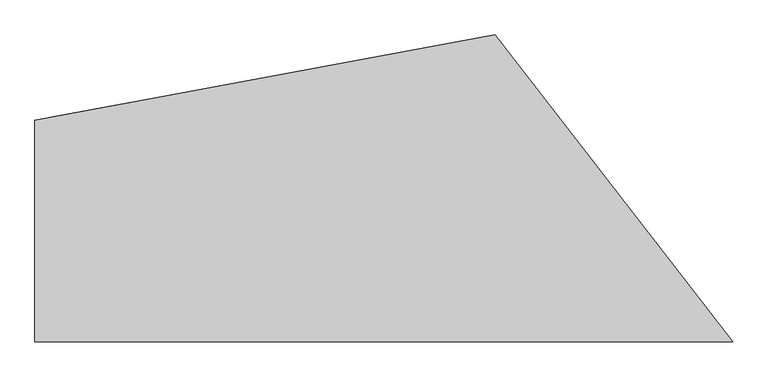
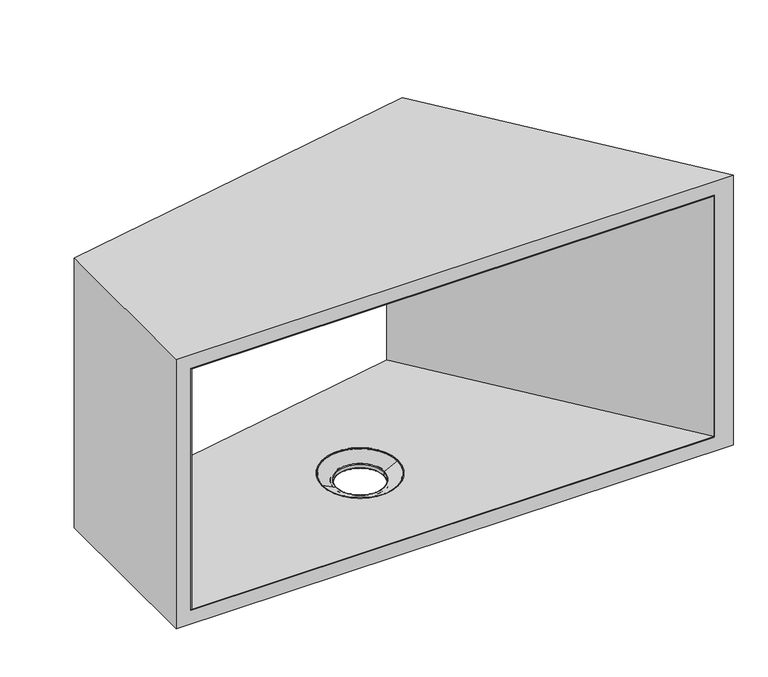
"""IFC4 building model written with IfcOpenShell, lengths in millimetres: furniture geometry, Coalesse_AM_Table_Occasional_Sebastopol_Large : 22H - With Gromment."""

from ifc_helpers import new_model, si_unit, point, frame, frame_2d, origin, origin_with_axes, place, context, project, spatial, polyline, circle_curve, ellipse_curve, trimmed, segment, composite_curve, outline, extrude, source, transform, mapped, element, save
from ifc_brep_helpers import plane_surface, cylinder_surface, revolved_surface, advanced_brep


def furniture_c7656f21(model_context):
    return source(origin(), model_context, "Body", "SolidModel", [
        extrude(outline(polyline([(-386.6129041, 451.557615), (-36.5419736, 0.0), (-1012.5201736, 0.0), (-1012.5201736, 335.5525594), (-386.6129041, 451.557615)]), holes=[composite_curve([segment(trimmed(circle_curve(frame_2d((-584.2000242, 196.215)), 69.5528681), [point((-514.6471561, 196.215))], [point((-653.7528923, 196.215))], True, "CARTESIAN"), True, "CONTINUOUS"), segment(trimmed(circle_curve(frame_2d((-584.2000242, 196.215)), 69.5528681), [point((-653.7528923, 196.215))], [point((-514.6471561, 196.215))], True, "CARTESIAN"), True, "CONTINUOUS")], self_intersect=False)]), frame((0.0, 0.0, 53.0098), z_axis=(0.0, 0.0, 1.0), x_axis=(1.0, 0.0, 0.0)), (0.0, 0.0, 1.0), 1.524),
        advanced_brep(
        [(-628.4624687, 196.215, 41.2015362), (-539.9375798, 196.215, 41.2015362), (-539.3083862, 196.215, 42.1809258), (-629.0916623, 196.215, 42.1809258), (-628.2451274, 196.215, 34.9776975), (-540.154921, 196.215, 34.9776975), (-630.708799, 196.215, 34.9776975), (-537.6912494, 196.215, 34.9776975), (-646.7376888, 196.215, 34.9776975), (-521.6623596, 196.215, 34.9776975), (-646.7376888, 196.215, 36.7445615), (-521.6623596, 196.215, 36.7445615), (-643.8349112, 196.215, 39.7504757), (-524.5651373, 196.215, 39.7504757), (-633.7164271, 196.215, 40.103821), (-534.6836213, 196.215, 40.103821), (-633.4122685, 196.215, 41.5347748), (-534.98778, 196.215, 41.5347748), (-652.7804402, 196.215, 50.9812633), (-515.6196082, 196.215, 50.9812633), (-653.2468556, 196.215, 51.727684), (-515.1531928, 196.215, 51.727684), (-653.2468556, 196.215, 53.0098), (-515.1531928, 196.215, 53.0098), (-656.1507851, 196.215, 53.0098), (-512.2492634, 196.215, 53.0098), (-656.1507851, 196.215, 54.0178131), (-512.2492634, 196.215, 54.0178131), (-654.6374395, 196.215, 54.9531343), (-513.7626089, 196.215, 54.9531343)],
        [
            (0, 1, circle_curve(frame((-584.2000242, 196.215, 41.2015362), z_axis=(0.0, 0.0, -1.0), x_axis=(1.0, 0.0, 0.0)), 44.2624445)),
            (1, 2, circle_curve(frame((-538.7988356, 196.215, 41.1617704), z_axis=(0.0, 1.0, 0.0), x_axis=(0.0, 0.0, 1.0)), 1.1394383)),
            (2, 3, circle_curve(frame((-584.2000242, 196.215, 42.1809258), z_axis=(0.0, 0.0, 1.0), x_axis=(1.0, 0.0, 0.0)), 44.891638)),
            (3, 0, circle_curve(frame((-629.6012128, 196.215, 41.1617704), z_axis=(0.0, 1.0, 0.0), x_axis=(0.0, 0.0, 1.0)), 1.1394383)),
            (1, 0, circle_curve(frame((-584.2000242, 196.215, 41.2015362), z_axis=(0.0, 0.0, -1.0), x_axis=(1.0, 0.0, 0.0)), 44.2624445)),
            (3, 2, circle_curve(frame((-584.2000242, 196.215, 42.1809258), z_axis=(0.0, 0.0, 1.0), x_axis=(1.0, 0.0, 0.0)), 44.891638)),
            (4, 5, circle_curve(frame((-584.2000242, 196.215, 34.9776975), z_axis=(0.0, 0.0, -1.0), x_axis=(1.0, 0.0, 0.0)), 44.0451032)),
            (5, 1),
            (0, 4),
            (5, 4, circle_curve(frame((-584.2000242, 196.215, 34.9776975), z_axis=(0.0, 0.0, -1.0), x_axis=(1.0, 0.0, 0.0)), 44.0451032)),
            (6, 7, circle_curve(frame((-584.2000242, 196.215, 34.9776975), z_axis=(0.0, 0.0, -1.0), x_axis=(1.0, 0.0, 0.0)), 46.5087748)),
            (7, 5, circle_curve(frame((-538.9230852, 196.215, 34.9346809), z_axis=(0.0, 1.0, 0.0), x_axis=(0.0, 0.0, 1.0)), 1.2325866)),
            (4, 6, circle_curve(frame((-629.4769632, 196.215, 34.9346809), z_axis=(0.0, 1.0, 0.0), x_axis=(0.0, 0.0, 1.0)), 1.2325866)),
            (7, 6, circle_curve(frame((-584.2000242, 196.215, 34.9776975), z_axis=(0.0, 0.0, -1.0), x_axis=(1.0, 0.0, 0.0)), 46.5087748)),
            (8, 9, circle_curve(frame((-584.2000242, 196.215, 34.9776975), z_axis=(0.0, 0.0, -1.0), x_axis=(1.0, 0.0, 0.0)), 62.5376646)),
            (9, 7),
            (6, 8),
            (9, 8, circle_curve(frame((-584.2000242, 196.215, 34.9776975), z_axis=(0.0, 0.0, -1.0), x_axis=(1.0, 0.0, 0.0)), 62.5376646)),
            (10, 11, circle_curve(frame((-584.2000242, 196.215, 36.7445615), z_axis=(0.0, 0.0, -1.0), x_axis=(1.0, 0.0, 0.0)), 62.5376646)),
            (11, 9),
            (8, 10),
            (11, 10, circle_curve(frame((-584.2000242, 196.215, 36.7445615), z_axis=(0.0, 0.0, -1.0), x_axis=(1.0, 0.0, 0.0)), 62.5376646)),
            (12, 13, circle_curve(frame((-584.2000242, 196.215, 39.7504757), z_axis=(0.0, 0.0, -1.0), x_axis=(1.0, 0.0, 0.0)), 59.634887)),
            (13, 11, circle_curve(frame((-524.6701061, 196.215, 36.7445615), z_axis=(0.0, 1.0, 0.0), x_axis=(0.0, 0.0, 1.0)), 3.0077465)),
            (10, 12, circle_curve(frame((-643.7299423, 196.215, 36.7445615), z_axis=(0.0, 1.0, 0.0), x_axis=(0.0, 0.0, 1.0)), 3.0077465)),
            (13, 12, circle_curve(frame((-584.2000242, 196.215, 39.7504757), z_axis=(0.0, 0.0, -1.0), x_axis=(1.0, 0.0, 0.0)), 59.634887)),
            (14, 15, circle_curve(frame((-584.2000242, 196.215, 40.103821), z_axis=(0.0, 0.0, -1.0), x_axis=(1.0, 0.0, 0.0)), 49.5164029)),
            (15, 13),
            (12, 14),
            (15, 14, circle_curve(frame((-584.2000242, 196.215, 40.103821), z_axis=(0.0, 0.0, -1.0), x_axis=(1.0, 0.0, 0.0)), 49.5164029)),
            (16, 17, circle_curve(frame((-584.2000242, 196.215, 41.5347748), z_axis=(0.0, 0.0, -1.0), x_axis=(1.0, 0.0, 0.0)), 49.2122443)),
            (17, 15, circle_curve(frame((-534.6573122, 196.215, 40.8572155), z_axis=(0.0, -1.0, 0.0), x_axis=(0.0, 0.0, 1.0)), 0.7538537)),
            (14, 16, circle_curve(frame((-633.7427362, 196.215, 40.8572155), z_axis=(0.0, -1.0, 0.0), x_axis=(0.0, 0.0, 1.0)), 0.7538537)),
            (17, 16, circle_curve(frame((-584.2000242, 196.215, 41.5347748), z_axis=(0.0, 0.0, -1.0), x_axis=(1.0, 0.0, 0.0)), 49.2122443)),
            (18, 19, circle_curve(frame((-584.2000242, 196.215, 50.9812633), z_axis=(0.0, 0.0, -1.0), x_axis=(1.0, 0.0, 0.0)), 68.580416)),
            (19, 17),
            (16, 18),
            (19, 18, circle_curve(frame((-584.2000242, 196.215, 50.9812633), z_axis=(0.0, 0.0, -1.0), x_axis=(1.0, 0.0, 0.0)), 68.580416)),
            (20, 21, circle_curve(frame((-584.2000242, 196.215, 51.727684), z_axis=(0.0, 0.0, -1.0), x_axis=(1.0, 0.0, 0.0)), 69.0468314)),
            (21, 19, circle_curve(frame((-515.9836619, 196.215, 51.727684), z_axis=(0.0, 1.0, 0.0), x_axis=(0.0, 0.0, 1.0)), 0.8304691)),
            (18, 20, circle_curve(frame((-652.4163865, 196.215, 51.727684), z_axis=(0.0, 1.0, 0.0), x_axis=(0.0, 0.0, 1.0)), 0.8304691)),
            (21, 20, circle_curve(frame((-584.2000242, 196.215, 51.727684), z_axis=(0.0, 0.0, -1.0), x_axis=(1.0, 0.0, 0.0)), 69.0468314)),
            (22, 23, circle_curve(frame((-584.2000242, 196.215, 53.0098), z_axis=(0.0, 0.0, -1.0), x_axis=(1.0, 0.0, 0.0)), 69.0468314)),
            (23, 21),
            (20, 22),
            (23, 22, circle_curve(frame((-584.2000242, 196.215, 53.0098), z_axis=(0.0, 0.0, -1.0), x_axis=(1.0, 0.0, 0.0)), 69.0468314)),
            (24, 25, circle_curve(frame((-584.2000242, 196.215, 53.0098), z_axis=(0.0, 0.0, -1.0), x_axis=(1.0, 0.0, 0.0)), 71.9507609)),
            (25, 23),
            (22, 24),
            (25, 24, circle_curve(frame((-584.2000242, 196.215, 53.0098), z_axis=(0.0, 0.0, -1.0), x_axis=(1.0, 0.0, 0.0)), 71.9507609)),
            (26, 27, circle_curve(frame((-584.2000242, 196.215, 54.0178131), z_axis=(0.0, 0.0, -1.0), x_axis=(1.0, 0.0, 0.0)), 71.9507609)),
            (27, 25),
            (24, 26),
            (27, 26, circle_curve(frame((-584.2000242, 196.215, 54.0178131), z_axis=(0.0, 0.0, -1.0), x_axis=(1.0, 0.0, 0.0)), 71.9507609)),
            (28, 29, circle_curve(frame((-584.2000242, 196.215, 54.9531343), z_axis=(0.0, 0.0, -1.0), x_axis=(1.0, 0.0, 0.0)), 70.4374153)),
            (29, 27, circle_curve(frame((-513.2949732, 196.215, 54.0178131), z_axis=(0.0, 1.0, 0.0), x_axis=(0.0, 0.0, 1.0)), 1.0457098)),
            (26, 28, circle_curve(frame((-655.1050753, 196.215, 54.0178131), z_axis=(0.0, 1.0, 0.0), x_axis=(0.0, 0.0, 1.0)), 1.0457098)),
            (29, 28, circle_curve(frame((-584.2000242, 196.215, 54.9531343), z_axis=(0.0, 0.0, -1.0), x_axis=(1.0, 0.0, 0.0)), 70.4374153)),
            (2, 29),
            (28, 3),
        ],
        [
            revolved_surface(trimmed(ellipse_curve(frame((-538.7988356, 196.215, 41.1617704), z_axis=(0.0, -1.0, 0.0), x_axis=(0.0, 0.0, 1.0)), 1.1394383, 1.1394383), [point((-539.3083862, 196.215, 42.1809258))], [point((-539.9375798, 196.215, 41.2015362))], True, "CARTESIAN"), (-584.2000242, 196.215, 34.9776975), (0.0, 0.0, 1.0)),
            revolved_surface(polyline([(-539.9375798, 196.215, 41.2015362), (-540.154921, 196.215, 34.9776975)]), (-584.2000242, 196.215, 34.9776975), (0.0, 0.0, 1.0)),
            revolved_surface(trimmed(ellipse_curve(frame((-538.9230852, 196.215, 34.9346809), z_axis=(0.0, -1.0, 0.0), x_axis=(0.0, 0.0, 1.0)), 1.2325866, 1.2325866), [point((-540.154921, 196.215, 34.9776975))], [point((-537.6912494, 196.215, 34.9776975))], True, "CARTESIAN"), (-584.2000242, 196.215, 34.9776975), (0.0, 0.0, 1.0)),
            plane_surface(frame((-584.2000242, 196.215, 34.9776975), z_axis=(0.0, 0.0, -1.0), x_axis=(1.0, 0.0, 0.0))),
            cylinder_surface(frame((-584.2000242, 196.215, 34.9776975), z_axis=(0.0, 0.0, 1.0), x_axis=(1.0, 0.0, 0.0)), 62.5376646),
            revolved_surface(trimmed(ellipse_curve(frame((-524.6701061, 196.215, 36.7445615), z_axis=(0.0, -1.0, 0.0), x_axis=(0.0, 0.0, 1.0)), 3.0077465, 3.0077465), [point((-521.6623596, 196.215, 36.7445615))], [point((-524.5651373, 196.215, 39.7504757))], True, "CARTESIAN"), (-584.2000242, 196.215, 34.9776975), (0.0, 0.0, 1.0)),
            revolved_surface(polyline([(-524.5651373, 196.215, 39.7504757), (-534.6836213, 196.215, 40.103821)]), (-584.2000242, 196.215, 34.9776975), (0.0, 0.0, 1.0)),
            revolved_surface(trimmed(ellipse_curve(frame((-534.6573122, 196.215, 40.8572155), z_axis=(0.0, 1.0, 0.0), x_axis=(0.0, 0.0, 1.0)), 0.7538537, 0.7538537), [point((-534.6836213, 196.215, 40.103821))], [point((-534.98778, 196.215, 41.5347748))], True, "CARTESIAN"), (-584.2000242, 196.215, 34.9776975), (0.0, 0.0, 1.0)),
            revolved_surface(polyline([(-534.98778, 196.215, 41.5347748), (-515.6196082, 196.215, 50.9812633)]), (-584.2000242, 196.215, 34.9776975), (0.0, 0.0, 1.0)),
            revolved_surface(trimmed(ellipse_curve(frame((-515.9836619, 196.215, 51.727684), z_axis=(0.0, -1.0, 0.0), x_axis=(0.0, 0.0, 1.0)), 0.8304691, 0.8304691), [point((-515.6196082, 196.215, 50.9812633))], [point((-515.1531928, 196.215, 51.727684))], True, "CARTESIAN"), (-584.2000242, 196.215, 34.9776975), (0.0, 0.0, 1.0)),
            cylinder_surface(frame((-584.2000242, 196.215, 34.9776975), z_axis=(0.0, 0.0, 1.0), x_axis=(1.0, 0.0, 0.0)), 69.0468314),
            plane_surface(frame((-584.2000242, 196.215, 53.0098), z_axis=(0.0, 0.0, -1.0), x_axis=(1.0, 0.0, 0.0))),
            cylinder_surface(frame((-584.2000242, 196.215, 34.9776975), z_axis=(0.0, 0.0, 1.0), x_axis=(1.0, 0.0, 0.0)), 71.9507609),
            revolved_surface(trimmed(ellipse_curve(frame((-513.2949732, 196.215, 54.0178131), z_axis=(0.0, -1.0, 0.0), x_axis=(0.0, 0.0, 1.0)), 1.0457098, 1.0457098), [point((-512.2492634, 196.215, 54.0178131))], [point((-513.7626089, 196.215, 54.9531343))], True, "CARTESIAN"), (-584.2000242, 196.215, 34.9776975), (0.0, 0.0, 1.0)),
            revolved_surface(polyline([(-513.7626089, 196.215, 54.9531343), (-539.3083862, 196.215, 42.1809258)]), (-584.2000242, 196.215, 34.9776975), (0.0, 0.0, 1.0)),
        ],
        [
            (0, [[1, 2, 3, 4]]),
            (0, [[5, -4, 6, -2]]),
            (1, [[7, 8, -1, 9]]),
            (1, [[10, -9, -5, -8]]),
            (2, [[11, 12, -7, 13]]),
            (2, [[14, -13, -10, -12]]),
            (3, [[15, 16, -11, 17]]),
            (3, [[18, -17, -14, -16]]),
            (4, [[19, 20, -15, 21]]),
            (4, [[22, -21, -18, -20]]),
            (5, [[23, 24, -19, 25]]),
            (5, [[26, -25, -22, -24]]),
            (6, [[27, 28, -23, 29]]),
            (6, [[30, -29, -26, -28]]),
            (7, [[31, 32, -27, 33]]),
            (7, [[34, -33, -30, -32]]),
            (8, [[35, 36, -31, 37]]),
            (8, [[38, -37, -34, -36]]),
            (9, [[39, 40, -35, 41]]),
            (9, [[42, -41, -38, -40]]),
            (10, [[43, 44, -39, 45]]),
            (10, [[46, -45, -42, -44]]),
            (11, [[47, 48, -43, 49]]),
            (11, [[50, -49, -46, -48]]),
            (12, [[51, 52, -47, 53]]),
            (12, [[54, -53, -50, -52]]),
            (13, [[55, 56, -51, 57]]),
            (13, [[58, -57, -54, -56]]),
            (14, [[-3, 59, -55, 60]]),
            (14, [[-6, -60, -58, -59]]),
        ],
    ),
        extrude(outline(composite_curve([segment(trimmed(circle_curve(frame_2d((-409.0244772, 393.2172198)), 4.826), [point((-413.8504772, 393.2172198))], [point((-404.1984772, 393.2172198))], False, "CARTESIAN"), True, "CONTINUOUS"), segment(trimmed(circle_curve(frame_2d((-409.0244772, 393.2172198)), 4.826), [point((-404.1984772, 393.2172198))], [point((-413.8504772, 393.2172198))], False, "CARTESIAN"), True, "CONTINUOUS")], self_intersect=False)), frame((0.0, 0.0, 13.97), z_axis=(0.0, 0.0, 1.0), x_axis=(1.0, 0.0, 0.0)), (0.0, 0.0, 1.0), 11.4300008),
        extrude(outline(composite_curve([segment(trimmed(circle_curve(frame_2d((-409.0099832, 393.153578)), 17.526), [point((-426.5359832, 393.153578))], [point((-391.4839832, 393.153578))], False, "CARTESIAN"), True, "CONTINUOUS"), segment(trimmed(circle_curve(frame_2d((-409.0099832, 393.153578)), 17.526), [point((-391.4839832, 393.153578))], [point((-426.5359832, 393.153578))], False, "CARTESIAN"), True, "CONTINUOUS")], self_intersect=False)), origin_with_axes(), (0.0, 0.0, 1.0), 13.97),
        extrude(outline(composite_curve([segment(trimmed(circle_curve(frame_2d((-987.4333665, 285.936034)), 4.826), [point((-992.2593665, 285.936034))], [point((-982.6073665, 285.936034))], False, "CARTESIAN"), True, "CONTINUOUS"), segment(trimmed(circle_curve(frame_2d((-987.4333665, 285.936034)), 4.826), [point((-982.6073665, 285.936034))], [point((-992.2593665, 285.936034))], False, "CARTESIAN"), True, "CONTINUOUS")], self_intersect=False)), frame((0.0, 0.0, 13.97), z_axis=(0.0, 0.0, 1.0), x_axis=(1.0, 0.0, 0.0)), (0.0, 0.0, 1.0), 11.4300008),
        extrude(outline(composite_curve([segment(trimmed(circle_curve(frame_2d((-987.4188726, 285.8723922)), 17.526), [point((-1004.9448726, 285.8723922))], [point((-969.8928726, 285.8723922))], False, "CARTESIAN"), True, "CONTINUOUS"), segment(trimmed(circle_curve(frame_2d((-987.4188726, 285.8723922)), 17.526), [point((-969.8928726, 285.8723922))], [point((-1004.9448726, 285.8723922))], False, "CARTESIAN"), True, "CONTINUOUS")], self_intersect=False)), origin_with_axes(), (0.0, 0.0, 1.0), 13.97),
        extrude(outline(composite_curve([segment(trimmed(circle_curve(frame_2d((-144.7693521, 53.3510514)), 4.826), [point((-149.5953521, 53.3510514))], [point((-139.9433521, 53.3510514))], False, "CARTESIAN"), True, "CONTINUOUS"), segment(trimmed(circle_curve(frame_2d((-144.7693521, 53.3510514)), 4.826), [point((-139.9433521, 53.3510514))], [point((-149.5953521, 53.3510514))], False, "CARTESIAN"), True, "CONTINUOUS")], self_intersect=False)), frame((0.0, 0.0, 13.97), z_axis=(0.0, 0.0, 1.0), x_axis=(1.0, 0.0, 0.0)), (0.0, 0.0, 1.0), 11.4300008),
        extrude(outline(composite_curve([segment(trimmed(circle_curve(frame_2d((-144.7548582, 53.2874096)), 17.526), [point((-162.2808582, 53.2874096))], [point((-127.2288582, 53.2874096))], False, "CARTESIAN"), True, "CONTINUOUS"), segment(trimmed(circle_curve(frame_2d((-144.7548582, 53.2874096)), 17.526), [point((-127.2288582, 53.2874096))], [point((-162.2808582, 53.2874096))], False, "CARTESIAN"), True, "CONTINUOUS")], self_intersect=False)), origin_with_axes(), (0.0, 0.0, 1.0), 13.97),
        extrude(outline(composite_curve([segment(trimmed(circle_curve(frame_2d((-987.4333665, 53.3510514)), 4.826), [point((-992.2593665, 53.3510514))], [point((-982.6073665, 53.3510514))], False, "CARTESIAN"), True, "CONTINUOUS"), segment(trimmed(circle_curve(frame_2d((-987.4333665, 53.3510514)), 4.826), [point((-982.6073665, 53.3510514))], [point((-992.2593665, 53.3510514))], False, "CARTESIAN"), True, "CONTINUOUS")], self_intersect=False)), frame((0.0, 0.0, 13.97), z_axis=(0.0, 0.0, 1.0), x_axis=(1.0, 0.0, 0.0)), (0.0, 0.0, 1.0), 11.4300008),
        extrude(outline(composite_curve([segment(trimmed(circle_curve(frame_2d((-987.4188726, 53.2874096)), 17.526), [point((-1004.9448726, 53.2874096))], [point((-969.8928726, 53.2874096))], False, "CARTESIAN"), True, "CONTINUOUS"), segment(trimmed(circle_curve(frame_2d((-987.4188726, 53.2874096)), 17.526), [point((-969.8928726, 53.2874096))], [point((-1004.9448726, 53.2874096))], False, "CARTESIAN"), True, "CONTINUOUS")], self_intersect=False)), origin_with_axes(), (0.0, 0.0, 1.0), 13.97),
        extrude(outline(polyline([(-385.2078427, 451.8180277), (-34.9350268, 0.0), (-36.5419734, 0.0), (-386.6129039, 451.557615), (-385.2078427, 451.8180277)])), frame((0.0, 0.0, 53.0098), z_axis=(0.0, 0.0, 1.0), x_axis=(1.0, 0.0, 0.0)), (0.0, 0.0, 1.0), 478.1803879),
        extrude(outline(polyline([(-1012.5201736, 0.0), (-1013.7902, 0.0), (-1013.7902, 335.317178), (-1012.5201736, 335.5525634), (-1012.5201736, 0.0)])), frame((0.0, 0.0, 53.0098), z_axis=(0.0, 0.0, 1.0), x_axis=(1.0, 0.0, 0.0)), (0.0, 0.0, 1.0), 478.1803879),
        extrude(outline(polyline([(-386.6129041, 451.557615), (-36.5419736, 0.0), (-1012.5201736, 0.0), (-1012.5201736, 335.5525594), (-386.6129041, 451.557615)])), frame((0.0, 0.0, 529.6661879), z_axis=(0.0, 0.0, 1.0), x_axis=(1.0, 0.0, 0.0)), (0.0, 0.0, 1.0), 1.524),
        advanced_brep(
        [(-1041.4000242, 330.1999955, 558.8), (-1041.4000242, 0.0, 558.8), (0.0, 0.0, 558.8), (-354.6618066, 457.4794009, 558.8), (-1041.4000242, 330.1999955, 25.4000008), (-354.6618066, 457.4794009, 25.4000008), (0.0, 0.0, 25.4000008), (-1041.4000242, 0.0, 25.4000008), (-514.6471561, 196.215, 25.4000008), (-653.7528923, 196.215, 25.4000008), (-1013.7902, 0.0, 531.1901879), (-34.9350268, 0.0, 531.1901879), (-34.9350268, 0.0, 53.0098), (-1013.7902, 0.0, 53.0098), (-385.2078427, 451.8180277, 531.1901879), (-1013.7902, 335.317174, 531.1901879), (-1013.7902, 335.317174, 53.0098), (-385.2078427, 451.8180277, 53.0098), (-653.7528923, 196.215, 53.0098), (-514.6471561, 196.215, 53.0098)],
        [
            (0, 1),
            (1, 2),
            (2, 3),
            (3, 0),
            (4, 5),
            (5, 6),
            (6, 7),
            (7, 4),
            (8, 9, circle_curve(frame((-584.2000242, 196.215, 25.4000008), z_axis=(0.0, 0.0, 1.0), x_axis=(1.0, 0.0, 0.0)), 69.5528681)),
            (9, 8, circle_curve(frame((-584.2000242, 196.215, 25.4000008), z_axis=(0.0, 0.0, 1.0), x_axis=(1.0, 0.0, 0.0)), 69.5528681)),
            (0, 4),
            (7, 1),
            (6, 2),
            (10, 11),
            (11, 12),
            (12, 13),
            (13, 10),
            (5, 3),
            (14, 15),
            (15, 16),
            (16, 17),
            (17, 14),
            (14, 11),
            (10, 15),
            (16, 13),
            (12, 17),
            (18, 19, circle_curve(frame((-584.2000242, 196.215, 53.0098), z_axis=(0.0, 0.0, -1.0), x_axis=(1.0, 0.0, 0.0)), 69.5528681)),
            (19, 18, circle_curve(frame((-584.2000242, 196.215, 53.0098), z_axis=(0.0, 0.0, -1.0), x_axis=(1.0, 0.0, 0.0)), 69.5528681)),
            (18, 9),
            (8, 19),
        ],
        [
            plane_surface(frame((-1041.4000242, 330.2000121, 558.8), z_axis=(0.0, 0.0, 1.0), x_axis=(0.0, -1.0, 0.0))),
            plane_surface(frame((-1041.4000242, 330.2000121, 25.4000008), z_axis=(0.0, 0.0, -1.0), x_axis=(0.0, 1.0, 0.0))),
            plane_surface(frame((-1041.4000242, 330.1999955, 558.8), z_axis=(-1.0, 0.0, 0.0), x_axis=(0.0, 0.0, -1.0))),
            plane_surface(frame((-1041.4000242, 0.0, 558.8), z_axis=(0.0, -1.0, 0.0), x_axis=(0.0, 0.0, -1.0))),
            plane_surface(frame((0.0, 0.0, 558.8), z_axis=(0.7903186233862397, 0.6126960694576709, 0.0), x_axis=(0.0, 0.0, -1.0))),
            plane_surface(frame((-354.6618066, 457.4794009, 558.8), z_axis=(-0.18223552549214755, 0.9832549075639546, 0.0), x_axis=(0.0, 0.0, -1.0))),
            plane_surface(frame((-1013.7902, 330.1999955, 531.1901879), z_axis=(0.0, 0.0, -1.0), x_axis=(0.0, -1.0, 0.0))),
            plane_surface(frame((-1013.7902, 330.1999955, 53.0098), z_axis=(0.0, 0.0, 1.0), x_axis=(0.0, 1.0, 0.0))),
            plane_surface(frame((-1013.7902, 335.317174, 531.1901879), z_axis=(1.0, 0.0, 0.0), x_axis=(0.0, 0.0, -1.0))),
            plane_surface(frame((-34.9350268, 0.0, 531.1901879), z_axis=(-0.7903186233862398, -0.6126960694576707, 0.0), x_axis=(0.0, 0.0, -1.0))),
            revolved_surface(polyline([(-514.6471561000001, 196.215, 53.0098), (-514.6471561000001, 196.215, 25.4000008)]), (-584.2000242, 196.215, -63.5), (0.0, 0.0, 1.0)),
        ],
        [
            (0, [[1, 2, 3, 4]]),
            (1, [[5, 6, 7, 8], [9, 10]]),
            (2, [[-1, 11, -8, 12]]),
            (3, [[-2, -12, -7, 13], [14, 15, 16, 17]]),
            (4, [[-3, -13, -6, 18]]),
            (5, [[-4, -18, -5, -11], [19, 20, 21, 22]]),
            (6, [[23, -14, 24, -19]]),
            (7, [[25, -16, 26, -21], [27, 28]]),
            (8, [[-24, -17, -25, -20]]),
            (9, [[-23, -22, -26, -15]]),
            (10, [[29, -9, 30, -27]]),
            (10, [[-29, -28, -30, -10]]),
        ],
    ),
    ])


if __name__ == "__main__":
    model = new_model("IFC4")
    model_context = context("Model", 3, world=origin())
    ifc_project = project(units=[si_unit("LENGTHUNIT", "METRE", prefix="MILLI")], contexts=[model_context])
    site = spatial("IfcSite", under=ifc_project)
    building = spatial("IfcBuilding", under=site)
    placement = place(None, origin())
    furniture_shape = furniture_c7656f21(model_context)
    element("IfcFurniture", 1, ObjectType="Coalesse_AM_Table_Occasional_Sebastopol_Large : 22H - With Gromment", at=placement, inside=building, context=model_context, shape_type="MappedRepresentation", body=[
        mapped(furniture_shape, transform((0.0, 0.0, 0.0), x_axis=(1.0, 0.0, 0.0), y_axis=(0.0, 1.0, 0.0), z_axis=(0.0, 0.0, 1.0))),
    ])
    save(model, "model.ifc")
